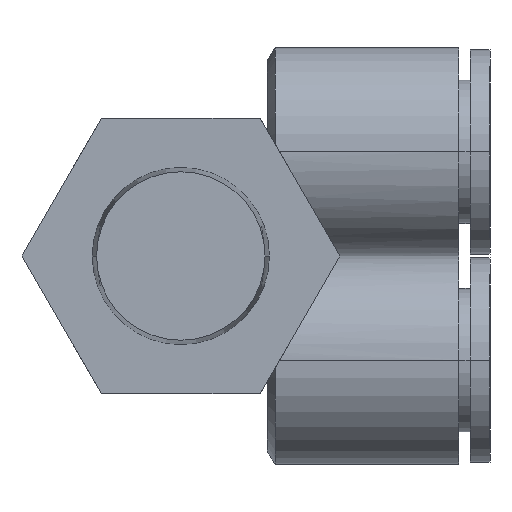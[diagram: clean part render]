
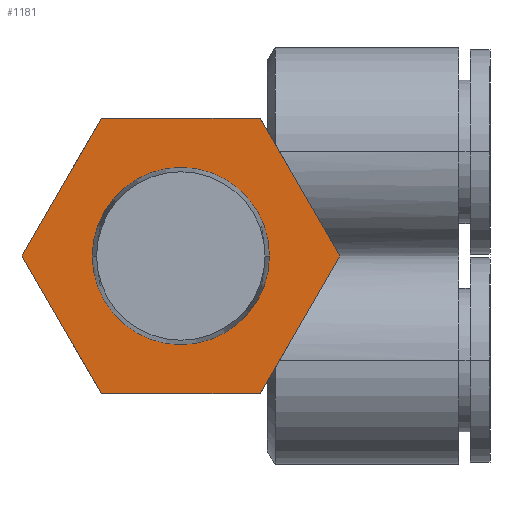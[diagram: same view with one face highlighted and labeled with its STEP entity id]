
A CAD part, front view. The second image highlights one B-rep face of the part: STEP entity #1181.
In plain terms, the highlighted planar face has unit normal (0, -1, 0).
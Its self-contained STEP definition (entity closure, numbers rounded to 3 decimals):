
#6 = CIRCLE ( 'NONE', #197, 6.76 ) ;
#30 = EDGE_CURVE ( 'NONE', #61, #2693, #498, .T. ) ;
#61 = VERTEX_POINT ( 'NONE', #1509 ) ;
#65 = ORIENTED_EDGE ( 'NONE', *, *, #1961, .T. ) ;
#197 = AXIS2_PLACEMENT_3D ( 'NONE', #1033, #2844, #2825 ) ;
#202 = DIRECTION ( 'NONE',  ( -1., 0., 0. ) ) ;
#293 = AXIS2_PLACEMENT_3D ( 'NONE', #824, #3569, #202 ) ;
#309 = CARTESIAN_POINT ( 'NONE',  ( -6.062, 5.8, -10.5 ) ) ;
#401 = FACE_OUTER_BOUND ( 'NONE', #3414, .T. ) ;
#498 = LINE ( 'NONE', #2953, #2151 ) ;
#662 = CARTESIAN_POINT ( 'NONE',  ( 7.403, 5.8, -8.177 ) ) ;
#677 = LINE ( 'NONE', #943, #1617 ) ;
#696 = CARTESIAN_POINT ( 'NONE',  ( 6.062, 5.8, 10.5 ) ) ;
#765 = EDGE_CURVE ( 'NONE', #2693, #3217, #677, .T. ) ;
#769 = EDGE_CURVE ( 'NONE', #2421, #2099, #3108, .T. ) ;
#824 = CARTESIAN_POINT ( 'NONE',  ( 0., 5.8, 0. ) ) ;
#864 = ORIENTED_EDGE ( 'NONE', *, *, #1989, .T. ) ;
#877 = CIRCLE ( 'NONE', #293, 6.76 ) ;
#943 = CARTESIAN_POINT ( 'NONE',  ( -6.76, 5.8, -10.5 ) ) ;
#976 = DIRECTION ( 'NONE',  ( -1., 0., 0. ) ) ;
#1033 = CARTESIAN_POINT ( 'NONE',  ( 0., 5.8, 0. ) ) ;
#1181 = ADVANCED_FACE ( 'NONE', ( #401, #1336 ), #1654, .F. ) ;
#1221 = DIRECTION ( 'NONE',  ( 0.5, 0., 0.866 ) ) ;
#1336 = FACE_BOUND ( 'NONE', #1910, .T. ) ;
#1341 = EDGE_CURVE ( 'NONE', #3217, #2421, #2124, .T. ) ;
#1352 = VERTEX_POINT ( 'NONE', #2465 ) ;
#1361 = CARTESIAN_POINT ( 'NONE',  ( -6.76, 5.8, 10.5 ) ) ;
#1365 = VECTOR ( 'NONE', #1221, 1000. ) ;
#1394 = ORIENTED_EDGE ( 'NONE', *, *, #30, .T. ) ;
#1509 = CARTESIAN_POINT ( 'NONE',  ( -12.124, 5.8, 0. ) ) ;
#1617 = VECTOR ( 'NONE', #3354, 1000. ) ;
#1654 = PLANE ( 'NONE',  #2386 ) ;
#1740 = CARTESIAN_POINT ( 'NONE',  ( -10.783, 5.8, 2.323 ) ) ;
#1741 = ORIENTED_EDGE ( 'NONE', *, *, #2504, .T. ) ;
#1780 = VECTOR ( 'NONE', #976, 1000. ) ;
#1811 = VERTEX_POINT ( 'NONE', #2097 ) ;
#1910 = EDGE_LOOP ( 'NONE', ( #65, #2234 ) ) ;
#1961 = EDGE_CURVE ( 'NONE', #1811, #1352, #6, .T. ) ;
#1989 = EDGE_CURVE ( 'NONE', #2099, #3724, #2803, .T. ) ;
#2097 = CARTESIAN_POINT ( 'NONE',  ( -6.76, 5.8, 0. ) ) ;
#2099 = VERTEX_POINT ( 'NONE', #696 ) ;
#2124 = LINE ( 'NONE', #662, #1365 ) ;
#2151 = VECTOR ( 'NONE', #3513, 1000. ) ;
#2181 = VECTOR ( 'NONE', #3371, 1000. ) ;
#2212 = EDGE_CURVE ( 'NONE', #1352, #1811, #877, .T. ) ;
#2234 = ORIENTED_EDGE ( 'NONE', *, *, #2212, .T. ) ;
#2307 = ORIENTED_EDGE ( 'NONE', *, *, #1341, .T. ) ;
#2386 = AXIS2_PLACEMENT_3D ( 'NONE', #2880, #2541, #3159 ) ;
#2421 = VERTEX_POINT ( 'NONE', #3842 ) ;
#2440 = CARTESIAN_POINT ( 'NONE',  ( 7.403, 5.8, 8.177 ) ) ;
#2465 = CARTESIAN_POINT ( 'NONE',  ( 6.76, 5.8, 0. ) ) ;
#2470 = ORIENTED_EDGE ( 'NONE', *, *, #765, .T. ) ;
#2504 = EDGE_CURVE ( 'NONE', #3724, #61, #3209, .T. ) ;
#2541 = DIRECTION ( 'NONE',  ( 0., 1., 0. ) ) ;
#2673 = ORIENTED_EDGE ( 'NONE', *, *, #769, .T. ) ;
#2693 = VERTEX_POINT ( 'NONE', #309 ) ;
#2711 = VECTOR ( 'NONE', #3547, 1000. ) ;
#2803 = LINE ( 'NONE', #1361, #1780 ) ;
#2825 = DIRECTION ( 'NONE',  ( -1., 0., 0. ) ) ;
#2844 = DIRECTION ( 'NONE',  ( 0., 1., 0. ) ) ;
#2880 = CARTESIAN_POINT ( 'NONE',  ( -6.76, 5.8, 0. ) ) ;
#2953 = CARTESIAN_POINT ( 'NONE',  ( -10.783, 5.8, -2.323 ) ) ;
#3108 = LINE ( 'NONE', #2440, #2181 ) ;
#3159 = DIRECTION ( 'NONE',  ( 1., 0., 0. ) ) ;
#3209 = LINE ( 'NONE', #1740, #2711 ) ;
#3217 = VERTEX_POINT ( 'NONE', #3219 ) ;
#3219 = CARTESIAN_POINT ( 'NONE',  ( 6.062, 5.8, -10.5 ) ) ;
#3354 = DIRECTION ( 'NONE',  ( 1., 0., 0. ) ) ;
#3371 = DIRECTION ( 'NONE',  ( -0.5, 0., 0.866 ) ) ;
#3414 = EDGE_LOOP ( 'NONE', ( #1741, #1394, #2470, #2307, #2673, #864 ) ) ;
#3513 = DIRECTION ( 'NONE',  ( 0.5, 0., -0.866 ) ) ;
#3514 = CARTESIAN_POINT ( 'NONE',  ( -6.062, 5.8, 10.5 ) ) ;
#3547 = DIRECTION ( 'NONE',  ( -0.5, 0., -0.866 ) ) ;
#3569 = DIRECTION ( 'NONE',  ( 0., 1., 0. ) ) ;
#3724 = VERTEX_POINT ( 'NONE', #3514 ) ;
#3842 = CARTESIAN_POINT ( 'NONE',  ( 12.124, 5.8, 0. ) ) ;
